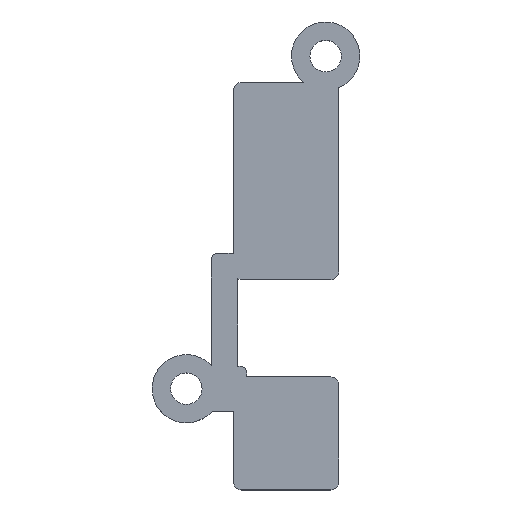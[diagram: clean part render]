
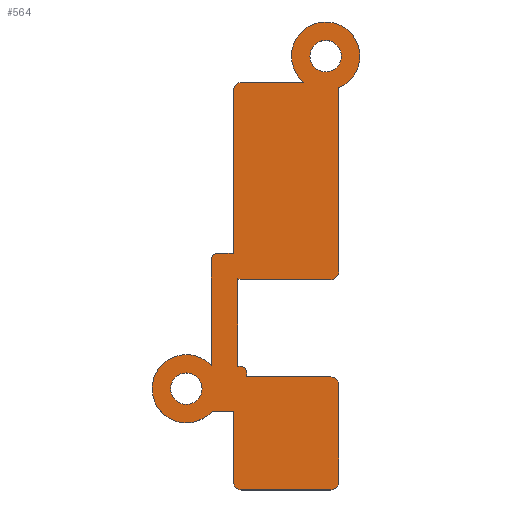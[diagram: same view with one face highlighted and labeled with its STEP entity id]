
A CAD part, top view. The second image highlights one B-rep face of the part: STEP entity #564.
In plain terms, the highlighted planar face has unit normal (0, 0, 1).
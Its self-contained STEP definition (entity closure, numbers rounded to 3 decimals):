
#31=FACE_BOUND('',#97,.T.);
#32=FACE_BOUND('',#98,.T.);
#47=CIRCLE('',#623,0.6);
#48=CIRCLE('',#624,0.6);
#49=CIRCLE('',#625,0.6);
#50=CIRCLE('',#626,0.5);
#51=CIRCLE('',#627,0.6);
#52=CIRCLE('',#628,0.6);
#53=CIRCLE('',#629,0.6);
#54=CIRCLE('',#630,2.6);
#55=CIRCLE('',#631,0.6);
#56=CIRCLE('',#632,0.5);
#57=CIRCLE('',#633,0.5);
#58=CIRCLE('',#634,2.6);
#59=CIRCLE('',#635,1.2);
#60=CIRCLE('',#636,1.2);
#64=FACE_OUTER_BOUND('',#96,.T.);
#96=EDGE_LOOP('',(#413,#414,#415,#416,#417,#418,#419,#420,#421,#422,#423,
#424,#425,#426,#427,#428,#429,#430,#431,#432,#433,#434,#435,#436,#437,#438));
#97=EDGE_LOOP('',(#439));
#98=EDGE_LOOP('',(#440));
#127=LINE('',#845,#183);
#142=LINE('',#903,#198);
#144=LINE('',#909,#200);
#145=LINE('',#913,#201);
#146=LINE('',#917,#202);
#147=LINE('',#919,#203);
#148=LINE('',#923,#204);
#149=LINE('',#925,#205);
#150=LINE('',#929,#206);
#151=LINE('',#933,#207);
#152=LINE('',#939,#208);
#153=LINE('',#943,#209);
#154=LINE('',#947,#210);
#155=LINE('',#951,#211);
#183=VECTOR('',#669,1.);
#198=VECTOR('',#716,1.);
#200=VECTOR('',#722,1.);
#201=VECTOR('',#725,1.);
#202=VECTOR('',#728,1.);
#203=VECTOR('',#729,1.);
#204=VECTOR('',#732,1.);
#205=VECTOR('',#733,1.);
#206=VECTOR('',#736,1.);
#207=VECTOR('',#739,1.);
#208=VECTOR('',#744,1.);
#209=VECTOR('',#747,1.);
#210=VECTOR('',#750,1.);
#211=VECTOR('',#753,1.);
#239=VERTEX_POINT('',#842);
#240=VERTEX_POINT('',#844);
#267=VERTEX_POINT('',#902);
#268=VERTEX_POINT('',#906);
#269=VERTEX_POINT('',#908);
#270=VERTEX_POINT('',#910);
#271=VERTEX_POINT('',#912);
#272=VERTEX_POINT('',#914);
#273=VERTEX_POINT('',#916);
#274=VERTEX_POINT('',#918);
#275=VERTEX_POINT('',#920);
#276=VERTEX_POINT('',#922);
#277=VERTEX_POINT('',#924);
#278=VERTEX_POINT('',#926);
#279=VERTEX_POINT('',#928);
#280=VERTEX_POINT('',#930);
#281=VERTEX_POINT('',#932);
#282=VERTEX_POINT('',#934);
#283=VERTEX_POINT('',#936);
#284=VERTEX_POINT('',#938);
#285=VERTEX_POINT('',#940);
#286=VERTEX_POINT('',#942);
#287=VERTEX_POINT('',#944);
#288=VERTEX_POINT('',#946);
#289=VERTEX_POINT('',#948);
#290=VERTEX_POINT('',#950);
#291=VERTEX_POINT('',#953);
#292=VERTEX_POINT('',#955);
#295=EDGE_CURVE('',#239,#240,#127,.T.);
#324=EDGE_CURVE('',#267,#240,#142,.T.);
#326=EDGE_CURVE('',#268,#239,#47,.T.);
#327=EDGE_CURVE('',#268,#269,#144,.T.);
#328=EDGE_CURVE('',#270,#269,#48,.T.);
#329=EDGE_CURVE('',#270,#271,#145,.T.);
#330=EDGE_CURVE('',#272,#271,#49,.T.);
#331=EDGE_CURVE('',#273,#272,#146,.T.);
#332=EDGE_CURVE('',#273,#274,#147,.T.);
#333=EDGE_CURVE('',#274,#275,#50,.T.);
#334=EDGE_CURVE('',#276,#275,#148,.T.);
#335=EDGE_CURVE('',#276,#277,#149,.T.);
#336=EDGE_CURVE('',#278,#277,#51,.T.);
#337=EDGE_CURVE('',#278,#279,#150,.T.);
#338=EDGE_CURVE('',#280,#279,#52,.T.);
#339=EDGE_CURVE('',#280,#281,#151,.T.);
#340=EDGE_CURVE('',#282,#281,#53,.T.);
#341=EDGE_CURVE('',#282,#283,#54,.T.);
#342=EDGE_CURVE('',#284,#283,#152,.T.);
#343=EDGE_CURVE('',#285,#284,#55,.T.);
#344=EDGE_CURVE('',#286,#285,#153,.T.);
#345=EDGE_CURVE('',#286,#287,#56,.T.);
#346=EDGE_CURVE('',#288,#287,#154,.T.);
#347=EDGE_CURVE('',#288,#289,#57,.T.);
#348=EDGE_CURVE('',#290,#289,#155,.T.);
#349=EDGE_CURVE('',#290,#267,#58,.T.);
#350=EDGE_CURVE('',#291,#291,#59,.T.);
#351=EDGE_CURVE('',#292,#292,#60,.T.);
#413=ORIENTED_EDGE('',*,*,#295,.F.);
#414=ORIENTED_EDGE('',*,*,#326,.F.);
#415=ORIENTED_EDGE('',*,*,#327,.T.);
#416=ORIENTED_EDGE('',*,*,#328,.F.);
#417=ORIENTED_EDGE('',*,*,#329,.T.);
#418=ORIENTED_EDGE('',*,*,#330,.F.);
#419=ORIENTED_EDGE('',*,*,#331,.F.);
#420=ORIENTED_EDGE('',*,*,#332,.T.);
#421=ORIENTED_EDGE('',*,*,#333,.T.);
#422=ORIENTED_EDGE('',*,*,#334,.F.);
#423=ORIENTED_EDGE('',*,*,#335,.T.);
#424=ORIENTED_EDGE('',*,*,#336,.F.);
#425=ORIENTED_EDGE('',*,*,#337,.T.);
#426=ORIENTED_EDGE('',*,*,#338,.F.);
#427=ORIENTED_EDGE('',*,*,#339,.T.);
#428=ORIENTED_EDGE('',*,*,#340,.F.);
#429=ORIENTED_EDGE('',*,*,#341,.T.);
#430=ORIENTED_EDGE('',*,*,#342,.F.);
#431=ORIENTED_EDGE('',*,*,#343,.F.);
#432=ORIENTED_EDGE('',*,*,#344,.F.);
#433=ORIENTED_EDGE('',*,*,#345,.T.);
#434=ORIENTED_EDGE('',*,*,#346,.F.);
#435=ORIENTED_EDGE('',*,*,#347,.T.);
#436=ORIENTED_EDGE('',*,*,#348,.F.);
#437=ORIENTED_EDGE('',*,*,#349,.T.);
#438=ORIENTED_EDGE('',*,*,#324,.T.);
#439=ORIENTED_EDGE('',*,*,#350,.F.);
#440=ORIENTED_EDGE('',*,*,#351,.F.);
#548=PLANE('',#622);
#564=ADVANCED_FACE('',(#64,#31,#32),#548,.T.);
#622=AXIS2_PLACEMENT_3D('',#905,#718,#719);
#623=AXIS2_PLACEMENT_3D('',#907,#720,#721);
#624=AXIS2_PLACEMENT_3D('',#911,#723,#724);
#625=AXIS2_PLACEMENT_3D('',#915,#726,#727);
#626=AXIS2_PLACEMENT_3D('',#921,#730,#731);
#627=AXIS2_PLACEMENT_3D('',#927,#734,#735);
#628=AXIS2_PLACEMENT_3D('',#931,#737,#738);
#629=AXIS2_PLACEMENT_3D('',#935,#740,#741);
#630=AXIS2_PLACEMENT_3D('',#937,#742,#743);
#631=AXIS2_PLACEMENT_3D('',#941,#745,#746);
#632=AXIS2_PLACEMENT_3D('',#945,#748,#749);
#633=AXIS2_PLACEMENT_3D('',#949,#751,#752);
#634=AXIS2_PLACEMENT_3D('',#952,#754,#755);
#635=AXIS2_PLACEMENT_3D('',#954,#756,#757);
#636=AXIS2_PLACEMENT_3D('',#956,#758,#759);
#669=DIRECTION('',(0.,1.,0.));
#716=DIRECTION('',(1.,0.,0.));
#718=DIRECTION('center_axis',(0.,0.,1.));
#719=DIRECTION('ref_axis',(1.,0.,0.));
#720=DIRECTION('center_axis',(0.,0.,-1.));
#721=DIRECTION('ref_axis',(-1.,0.,0.));
#722=DIRECTION('',(1.,0.,0.));
#723=DIRECTION('center_axis',(0.,0.,-1.));
#724=DIRECTION('ref_axis',(-1.,0.,0.));
#725=DIRECTION('',(0.,1.,0.));
#726=DIRECTION('center_axis',(0.,0.,-1.));
#727=DIRECTION('ref_axis',(-1.,0.,0.));
#728=DIRECTION('',(1.,0.,0.));
#729=DIRECTION('',(0.,1.,0.));
#730=DIRECTION('center_axis',(0.,0.,1.));
#731=DIRECTION('ref_axis',(1.,0.,0.));
#732=DIRECTION('',(1.,0.,0.));
#733=DIRECTION('',(0.,1.,0.));
#734=DIRECTION('center_axis',(0.,0.,-1.));
#735=DIRECTION('ref_axis',(-1.,0.,0.));
#736=DIRECTION('',(1.,0.,0.));
#737=DIRECTION('center_axis',(0.,0.,-1.));
#738=DIRECTION('ref_axis',(-1.,0.,0.));
#739=DIRECTION('',(0.,1.,0.));
#740=DIRECTION('center_axis',(0.,0.,-1.));
#741=DIRECTION('ref_axis',(-1.,0.,0.));
#742=DIRECTION('center_axis',(0.,0.,1.));
#743=DIRECTION('ref_axis',(0.373,-0.928,0.));
#744=DIRECTION('',(1.,0.,0.));
#745=DIRECTION('center_axis',(0.,0.,-1.));
#746=DIRECTION('ref_axis',(-1.,0.,0.));
#747=DIRECTION('',(0.,1.,0.));
#748=DIRECTION('center_axis',(0.,0.,1.));
#749=DIRECTION('ref_axis',(1.,0.,0.));
#750=DIRECTION('',(1.,0.,0.));
#751=DIRECTION('center_axis',(0.,0.,1.));
#752=DIRECTION('ref_axis',(1.,0.,0.));
#753=DIRECTION('',(0.,1.,0.));
#754=DIRECTION('center_axis',(0.,0.,1.));
#755=DIRECTION('ref_axis',(1.,0.,0.));
#756=DIRECTION('center_axis',(0.,0.,1.));
#757=DIRECTION('ref_axis',(1.,0.,0.));
#758=DIRECTION('center_axis',(0.,0.,1.));
#759=DIRECTION('ref_axis',(1.,0.,0.));
#842=CARTESIAN_POINT('',(-29.,34.6,-6.35));
#844=CARTESIAN_POINT('',(-29.,40.,-6.35));
#845=CARTESIAN_POINT('',(-29.,38.3,-6.35));
#902=CARTESIAN_POINT('',(-30.633,40.,-6.35));
#903=CARTESIAN_POINT('',(-30.3,40.,-6.35));
#905=CARTESIAN_POINT('Origin',(-25.,38.3,-6.35));
#906=CARTESIAN_POINT('',(-28.4,34.,-6.35));
#907=CARTESIAN_POINT('Origin',(-28.4,34.6,-6.35));
#908=CARTESIAN_POINT('',(-21.6,34.,-6.35));
#909=CARTESIAN_POINT('',(-25.,34.,-6.35));
#910=CARTESIAN_POINT('',(-21.,34.6,-6.35));
#911=CARTESIAN_POINT('Origin',(-21.6,34.6,-6.35));
#912=CARTESIAN_POINT('',(-21.,42.,-6.35));
#913=CARTESIAN_POINT('',(-21.,38.3,-6.35));
#914=CARTESIAN_POINT('',(-21.6,42.6,-6.35));
#915=CARTESIAN_POINT('Origin',(-21.6,42.,-6.35));
#916=CARTESIAN_POINT('',(-28.,42.6,-6.35));
#917=CARTESIAN_POINT('',(-25.,42.6,-6.35));
#918=CARTESIAN_POINT('',(-28.,42.9,-6.35));
#919=CARTESIAN_POINT('',(-28.,41.7,-6.35));
#920=CARTESIAN_POINT('',(-28.5,43.4,-6.35));
#921=CARTESIAN_POINT('Origin',(-28.5,42.9,-6.35));
#922=CARTESIAN_POINT('',(-28.7,43.4,-6.35));
#923=CARTESIAN_POINT('',(-30.3,43.4,-6.35));
#924=CARTESIAN_POINT('',(-28.7,50.08,-6.35));
#925=CARTESIAN_POINT('',(-28.7,46.,-6.35));
#926=CARTESIAN_POINT('',(-28.4,50.,-6.35));
#927=CARTESIAN_POINT('Origin',(-28.4,50.6,-6.35));
#928=CARTESIAN_POINT('',(-21.6,50.,-6.35));
#929=CARTESIAN_POINT('',(-25.,50.,-6.35));
#930=CARTESIAN_POINT('',(-21.,50.6,-6.35));
#931=CARTESIAN_POINT('Origin',(-21.6,50.6,-6.35));
#932=CARTESIAN_POINT('',(-21.,64.4,-6.35));
#933=CARTESIAN_POINT('',(-21.,57.5,-6.35));
#934=CARTESIAN_POINT('',(-21.03,64.588,-6.35));
#935=CARTESIAN_POINT('Origin',(-21.6,64.4,-6.35));
#936=CARTESIAN_POINT('',(-23.661,65.,-6.35));
#937=CARTESIAN_POINT('Origin',(-22.,67.,-6.35));
#938=CARTESIAN_POINT('',(-28.4,65.,-6.35));
#939=CARTESIAN_POINT('',(-25.,65.,-6.35));
#940=CARTESIAN_POINT('',(-29.,64.4,-6.35));
#941=CARTESIAN_POINT('Origin',(-28.4,64.4,-6.35));
#942=CARTESIAN_POINT('',(-29.,51.958,-6.35));
#943=CARTESIAN_POINT('',(-29.,57.5,-6.35));
#944=CARTESIAN_POINT('',(-29.2,52.,-6.35));
#945=CARTESIAN_POINT('Origin',(-29.2,51.5,-6.35));
#946=CARTESIAN_POINT('',(-30.2,52.,-6.35));
#947=CARTESIAN_POINT('',(-29.7,52.,-6.35));
#948=CARTESIAN_POINT('',(-30.7,51.5,-6.35));
#949=CARTESIAN_POINT('Origin',(-30.2,51.5,-6.35));
#950=CARTESIAN_POINT('',(-30.7,43.475,-6.35));
#951=CARTESIAN_POINT('',(-30.7,46.,-6.35));
#952=CARTESIAN_POINT('Origin',(-32.6,41.7,-6.35));
#953=CARTESIAN_POINT('',(-33.8,41.7,-6.35));
#954=CARTESIAN_POINT('Origin',(-32.6,41.7,-6.35));
#955=CARTESIAN_POINT('',(-23.2,67.,-6.35));
#956=CARTESIAN_POINT('Origin',(-22.,67.,-6.35));
